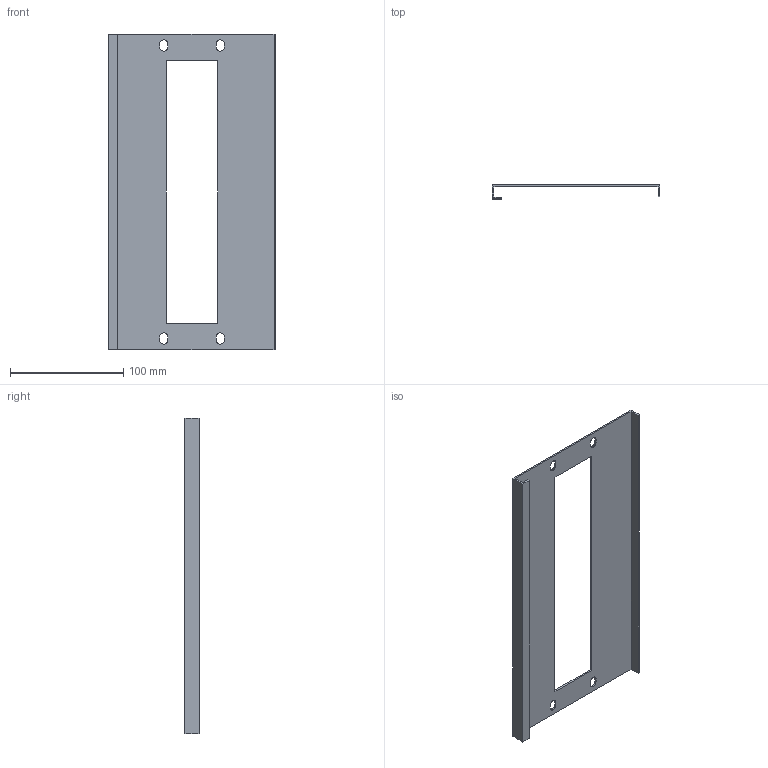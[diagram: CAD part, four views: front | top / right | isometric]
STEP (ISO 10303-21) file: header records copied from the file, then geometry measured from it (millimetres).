
FILE_DESCRIPTION (( 'STEP AP214' ), '1' );
FILE_NAME ('FO-00-PVM-015-040 Ïëàñòðîí äëÿ ìîäóëüíûõ óñòðîéñòâ 150õ400.STEP', '2025-08-26T08:11:33', ( '' ), ( '' ), 'SwSTEP 2.0', 'SolidWorks 2023', '' );
FILE_SCHEMA (( 'AUTOMOTIVE_DESIGN' ));
Length unit declared in the file: millimetre
Products named in the file (1): FO-00-PVM-015-040 Пластрон для модульных устройств 150х400
Bounding box: 148 x 12.5 x 279 mm (x, y, z)
Volume: 56628.1 mm3; surface area: 77863.6 mm2
Topology: 1 solids, 1 shells, 46 faces, 132 edges, 88 vertices
Faces by surface type: plane 34, cylinder 12
Entity records: 1543 total; most frequent: CARTESIAN_POINT 267, ORIENTED_EDGE 264, DIRECTION 250, EDGE_CURVE 132, LINE 108, VECTOR 108, VERTEX_POINT 88, AXIS2_PLACEMENT_3D 71
